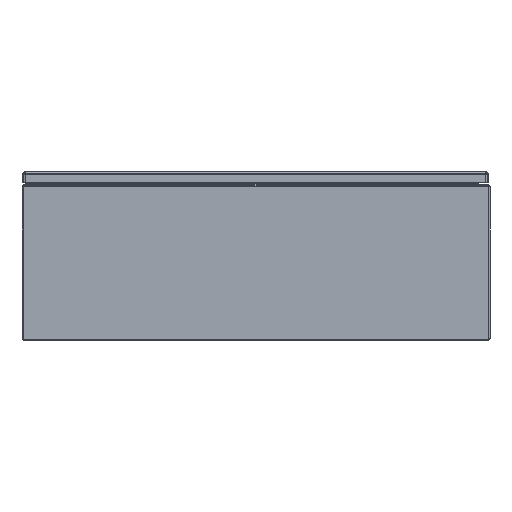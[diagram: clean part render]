
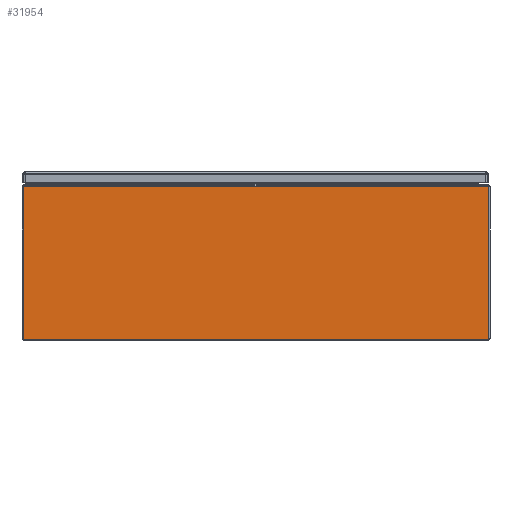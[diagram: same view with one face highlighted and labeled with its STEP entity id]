
A CAD part, front view. The second image highlights one B-rep face of the part: STEP entity #31954.
In plain terms, the highlighted planar face has unit normal (0, -1, 0).
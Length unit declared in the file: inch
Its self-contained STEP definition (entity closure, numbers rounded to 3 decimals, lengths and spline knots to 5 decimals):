
#3393 = DIRECTION ( 'NONE',  ( 0., 0., -1. ) ) ;
#3395 = DIRECTION ( 'NONE',  ( 0., -1., 0. ) ) ;
#3402 = PLANE ( 'NONE',  #11974 ) ;
#3409 = CARTESIAN_POINT ( 'NONE',  ( 15., 0., 0.08 ) ) ;
#9236 = CARTESIAN_POINT ( 'NONE',  ( 14.921, 0., 9.838 ) ) ;
#9237 = CARTESIAN_POINT ( 'NONE',  ( -14.921, 0., 9.838 ) ) ;
#9238 = CARTESIAN_POINT ( 'NONE',  ( 14.921, 0., 0.08 ) ) ;
#9239 = CARTESIAN_POINT ( 'NONE',  ( -14.921, 0., 0.08 ) ) ;
#11974 = AXIS2_PLACEMENT_3D ( 'NONE', #3409, #3395, #3393 ) ;
#21359 = FACE_OUTER_BOUND ( 'NONE', #51130, .T. ) ;
#24118 = VECTOR ( 'NONE', #25103, 39.37008 ) ;
#24120 = VECTOR ( 'NONE', #25090, 39.37008 ) ;
#24122 = LINE ( 'NONE', #25105, #24129 ) ;
#24123 = LINE ( 'NONE', #25088, #24120 ) ;
#24124 = LINE ( 'NONE', #25093, #24127 ) ;
#24125 = LINE ( 'NONE', #25101, #24118 ) ;
#24127 = VECTOR ( 'NONE', #25107, 39.37008 ) ;
#24129 = VECTOR ( 'NONE', #25111, 39.37008 ) ;
#25088 = CARTESIAN_POINT ( 'NONE',  ( 15., 0., 9.838 ) ) ;
#25090 = DIRECTION ( 'NONE',  ( -1., 0., 0. ) ) ;
#25093 = CARTESIAN_POINT ( 'NONE',  ( 15., 0., 0.08 ) ) ;
#25101 = CARTESIAN_POINT ( 'NONE',  ( 14.921, 0., 0.08 ) ) ;
#25103 = DIRECTION ( 'NONE',  ( 0., 0., -1. ) ) ;
#25105 = CARTESIAN_POINT ( 'NONE',  ( -14.921, 0., 10.569 ) ) ;
#25107 = DIRECTION ( 'NONE',  ( -1., 0., 0. ) ) ;
#25111 = DIRECTION ( 'NONE',  ( 0., 0., -1. ) ) ;
#31954 = ADVANCED_FACE ( 'NONE', ( #21359 ), #3402, .T. ) ;
#34891 = VERTEX_POINT ( 'NONE', #9239 ) ;
#34892 = VERTEX_POINT ( 'NONE', #9238 ) ;
#34893 = VERTEX_POINT ( 'NONE', #9237 ) ;
#34894 = VERTEX_POINT ( 'NONE', #9236 ) ;
#51130 = EDGE_LOOP ( 'NONE', ( #63405, #63583, #63546, #63604 ) ) ;
#63405 = ORIENTED_EDGE ( 'NONE', *, *, #67442, .F. ) ;
#63546 = ORIENTED_EDGE ( 'NONE', *, *, #67439, .T. ) ;
#63583 = ORIENTED_EDGE ( 'NONE', *, *, #67441, .F. ) ;
#63604 = ORIENTED_EDGE ( 'NONE', *, *, #67443, .T. ) ;
#67439 = EDGE_CURVE ( 'NONE', #34894, #34893, #24123, .T. ) ;
#67441 = EDGE_CURVE ( 'NONE', #34894, #34892, #24125, .T. ) ;
#67442 = EDGE_CURVE ( 'NONE', #34892, #34891, #24124, .T. ) ;
#67443 = EDGE_CURVE ( 'NONE', #34893, #34891, #24122, .T. ) ;
